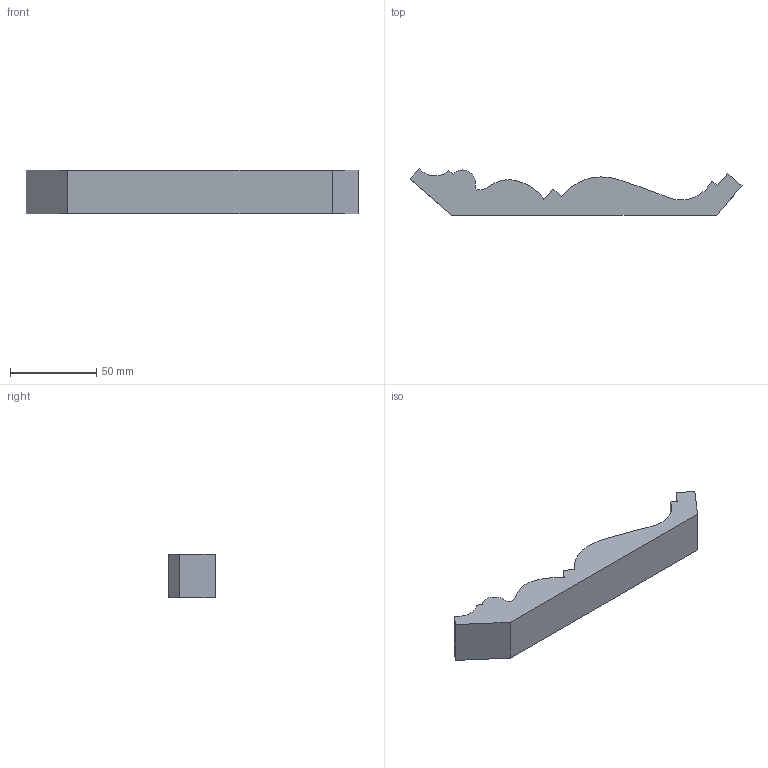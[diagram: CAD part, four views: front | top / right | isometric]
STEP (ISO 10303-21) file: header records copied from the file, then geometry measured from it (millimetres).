
FILE_DESCRIPTION (( 'STEP AP203' ), '1' );
FILE_NAME ('AB509FJ.STEP', '2023-08-25T14:18:56', ( '' ), ( '' ), 'SwSTEP 2.0', 'SolidWorks 2020', '' );
FILE_SCHEMA (( 'CONFIG_CONTROL_DESIGN' ));
Length unit declared in the file: inch
Products named in the file (1): AB509FJ
Bounding box: 192.1 x 26.97 x 25.4 mm (x, y, z)
Volume: 78572 mm3; surface area: 17378.9 mm2
Topology: 1 solids, 1 shells, 22 faces, 60 edges, 40 vertices
Faces by surface type: plane 12, cylinder 10
Entity records: 783 total; most frequent: DIRECTION 126, CARTESIAN_POINT 123, ORIENTED_EDGE 120, EDGE_CURVE 60, AXIS2_PLACEMENT_3D 43, VECTOR 40, LINE 40, VERTEX_POINT 40
